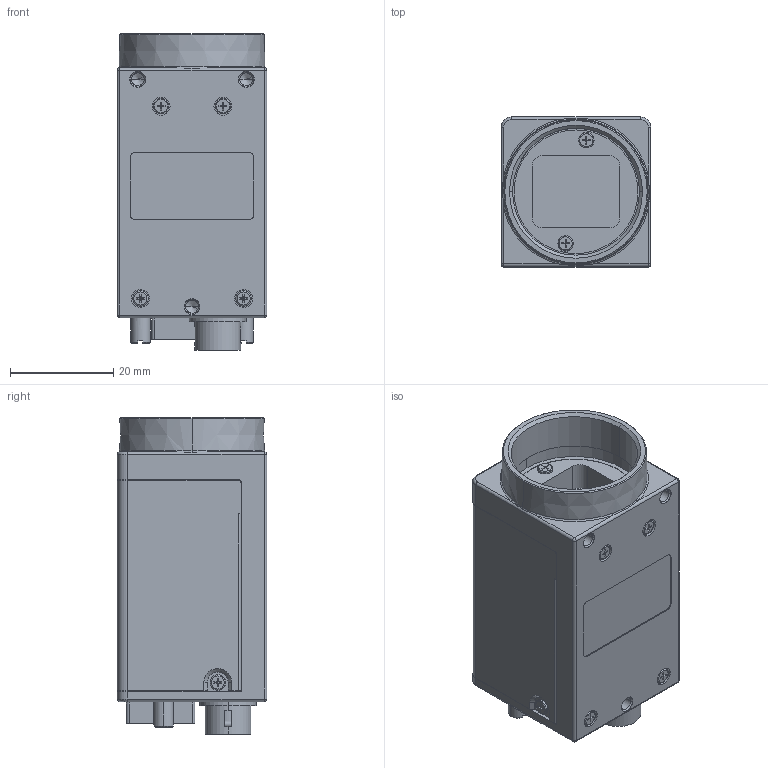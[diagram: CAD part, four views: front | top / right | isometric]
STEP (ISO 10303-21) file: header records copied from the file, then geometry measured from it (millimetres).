
FILE_DESCRIPTION((''),'2;1');
FILE_NAME('GOX-5105M-PGE_MOCK','2021-10-20T15:11:09',('aso'),(''),'CREO PARAMETRIC BY PTC INC, 2019352','CREO PARAMETRIC BY PTC INC, 2019352','');
FILE_SCHEMA(('AUTOMOTIVE_DESIGN { 1 0 10303 214 1 1 1 1 }'));
Length unit declared in the file: millimetre
Products named in the file (1): GOX-5105M-PGE_MOCK
Bounding box: 29 x 29 x 61.3 mm (x, y, z)
Volume: 37828.8 mm3; surface area: 11808.8 mm2
Topology: 1 solids, 8 shells, 581 faces, 1529 edges, 972 vertices
Faces by surface type: plane 313, cylinder 152, cone 68, torus 26, sphere 14, bspline 8
Entity records: 22432 total; most frequent: CARTESIAN_POINT 3701, DIRECTION 3087, ORIENTED_EDGE 2984, EDGE_CURVE 1503, AXIS2_PLACEMENT_3D 1060, VERTEX_POINT 972, VECTOR 967, LINE 967
